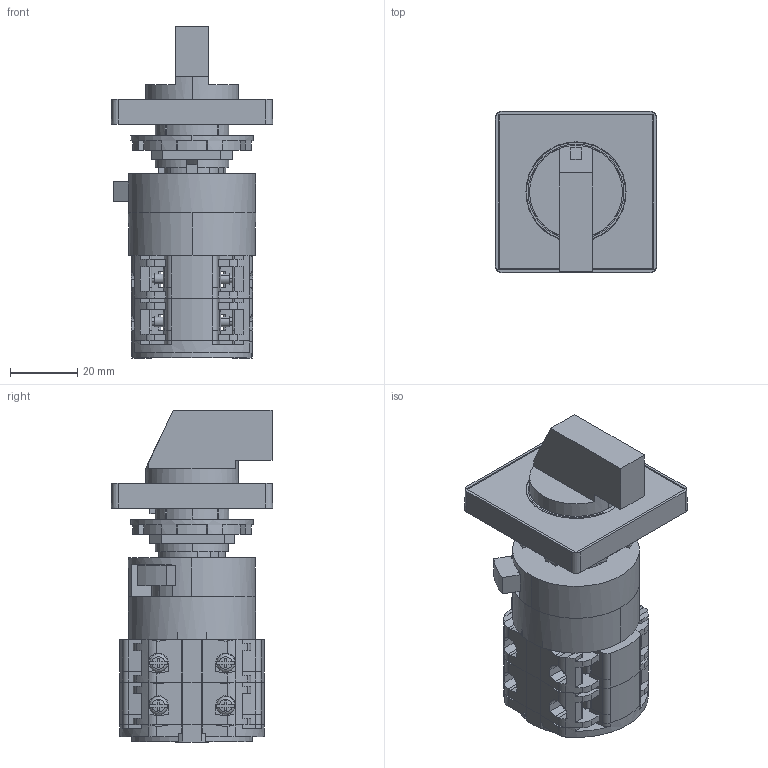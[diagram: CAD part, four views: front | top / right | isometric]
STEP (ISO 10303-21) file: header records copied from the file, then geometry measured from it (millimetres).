
FILE_DESCRIPTION(/* description */ (''),/* implementation_level */ '2;1');
FILE_NAME(/* name */ 'CAD11.A715.FT2.stp',/* time_stamp */ '2023-01-18T12:24:27+01:00',/* author */ (''),/* organization */ (''),/* preprocessor_version */ 'ST-DEVELOPER v18.101',/* originating_system */ 'SIEMENS PLM Software NX 2015',/* authorisation */ '');
FILE_SCHEMA (('AUTOMOTIVE_DESIGN { 1 0 10303 214 3 1 1 1 }'));
Products named in the file (1): CAD11.A715.FT2_objects
Bounding box: 48 x 48 x 98.75 mm (x, y, z)
Volume: 77412.1 mm3; surface area: 54393.9 mm2
Topology: 9 solids, 9 shells, 1832 faces, 5398 edges, 3576 vertices
Faces by surface type: plane 1170, cylinder 491, cone 100, torus 39, sphere 32
Entity records: 77264 total; most frequent: CARTESIAN_POINT 16493, ORIENTED_EDGE 10764, DIRECTION 10473, EDGE_CURVE 5382, VERTEX_POINT 3576, LINE 3547, VECTOR 3547, AXIS2_PLACEMENT_3D 3463
